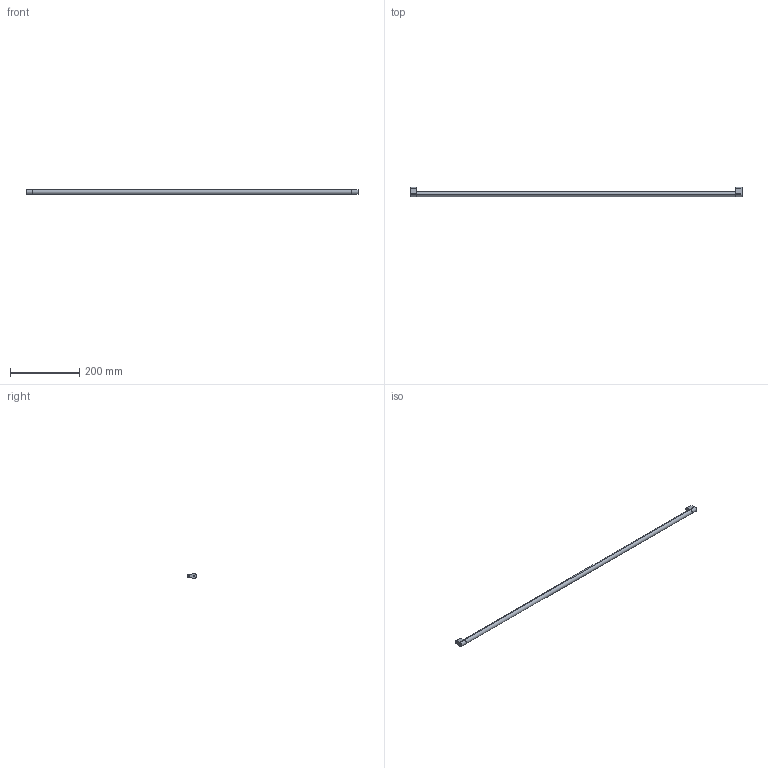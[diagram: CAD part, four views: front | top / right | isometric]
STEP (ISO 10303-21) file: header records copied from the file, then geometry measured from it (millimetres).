
FILE_DESCRIPTION (( 'STEP AP214' ), '1' );
FILE_NAME ('_Synchronisationseinheit DWD XP KAB1050_S16.step', '2010-07-08T13:58:21', ( 'grass' ), ( '' ), 'SwSTEP 2.0', 'SolidWorks 2010', '' );
FILE_SCHEMA (( 'AUTOMOTIVE_DESIGN' ));
Length unit declared in the file: millimetre
Products named in the file (1): _Synchronisationseinheit DWD XP KAB1050_S16
Bounding box: 957 x 26.5 x 14 mm (x, y, z)
Volume: 151005.5 mm3; surface area: 44938 mm2
Topology: 3 solids, 3 shells, 36 faces, 78 edges, 52 vertices
Faces by surface type: cylinder 18, plane 18
Entity records: 1050 total; most frequent: DIRECTION 188, CARTESIAN_POINT 167, ORIENTED_EDGE 156, EDGE_CURVE 78, AXIS2_PLACEMENT_3D 73, VERTEX_POINT 52, VECTOR 42, LINE 42
